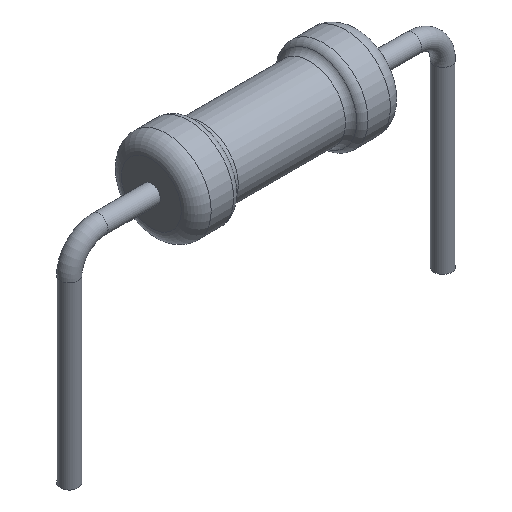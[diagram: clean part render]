
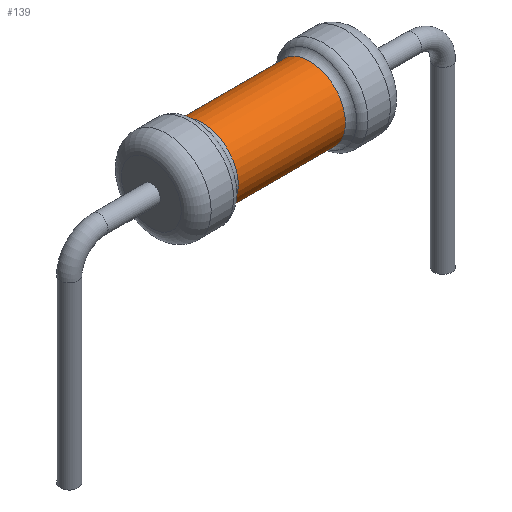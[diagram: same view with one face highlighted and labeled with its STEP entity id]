
A CAD part, isometric view. The second image highlights one B-rep face of the part: STEP entity #139.
In plain terms, the highlighted cylindrical face has radius 1.2 mm (diameter 2.4 mm), a full revolution.
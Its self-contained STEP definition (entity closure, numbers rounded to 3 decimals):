
#139=ADVANCED_FACE('',(#308,#310),#312,.T.);
#308=FACE_OUTER_BOUND('',#309,.T.);
#309=EDGE_LOOP('',(#413));
#310=FACE_OUTER_BOUND('',#311,.T.);
#311=EDGE_LOOP('',(#414));
#312=CYLINDRICAL_SURFACE('',#313,1.2);
#313=AXIS2_PLACEMENT_3D('',#314,#315,#316);
#314=CARTESIAN_POINT('',(1.792,0.,0.));
#315=DIRECTION('',(-1.,0.,0.));
#316=DIRECTION('',(0.,0.,1.));
#413=ORIENTED_EDGE('',*,*,#440,.T.);
#414=ORIENTED_EDGE('',*,*,#441,.F.);
#440=EDGE_CURVE('',#466,#466,#467,.T.);
#441=EDGE_CURVE('',#468,#468,#469,.T.);
#466=VERTEX_POINT('',#526);
#467=CIRCLE('',#527,1.2);
#468=VERTEX_POINT('',#531);
#469=CIRCLE('',#532,1.2);
#526=CARTESIAN_POINT('',(1.792,0.,1.2));
#527=AXIS2_PLACEMENT_3D('',#528,#529,#530);
#528=CARTESIAN_POINT('',(1.792,0.,0.));
#529=DIRECTION('',(-1.,0.,0.));
#530=DIRECTION('',(0.,0.,1.));
#531=CARTESIAN_POINT('',(-1.792,0.,1.2));
#532=AXIS2_PLACEMENT_3D('',#533,#534,#535);
#533=CARTESIAN_POINT('',(-1.792,0.,0.));
#534=DIRECTION('',(-1.,0.,0.));
#535=DIRECTION('',(0.,0.,1.));
